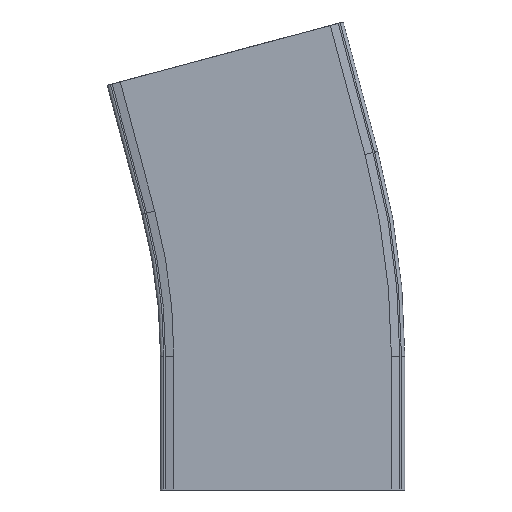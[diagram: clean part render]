
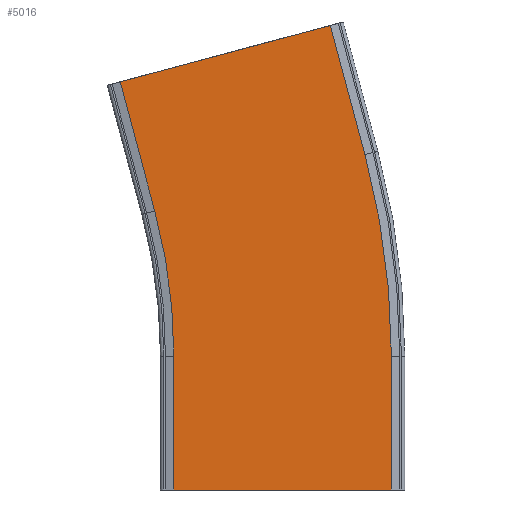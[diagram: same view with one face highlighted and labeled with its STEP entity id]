
A CAD part, front view. The second image highlights one B-rep face of the part: STEP entity #5016.
In plain terms, the highlighted planar face has unit normal (0, -1, 0).
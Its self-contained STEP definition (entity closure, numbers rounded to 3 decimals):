
#4773=CARTESIAN_POINT('',(104.,-74.,0.0));
#4774=VERTEX_POINT('',#4773);
#4781=CARTESIAN_POINT('',(-26.,-74.,0.0));
#4782=VERTEX_POINT('',#4781);
#4783=CARTESIAN_POINT('',(-26.,-74.,0.0));
#4784=DIRECTION('',(1.0,0.0,0.0));
#4785=VECTOR('',#4784,130.);
#4786=LINE('',#4783,#4785);
#4787=EDGE_CURVE('',#4782,#4774,#4786,.T.);
#4842=CARTESIAN_POINT('',(-26.,-74.,80.0));
#4843=VERTEX_POINT('',#4842);
#4852=CARTESIAN_POINT('',(-26.,-74.,0.0));
#4853=DIRECTION('',(0.0,0.0,1.0));
#4854=VECTOR('',#4853,80.0);
#4855=LINE('',#4852,#4854);
#4856=EDGE_CURVE('',#4782,#4843,#4855,.T.);
#4866=CARTESIAN_POINT('',(104.,-74.,80.0));
#4867=VERTEX_POINT('',#4866);
#4876=CARTESIAN_POINT('',(104.,-74.,0.0));
#4877=DIRECTION('',(0.0,0.0,1.0));
#4878=VECTOR('',#4877,80.0);
#4879=LINE('',#4876,#4878);
#4880=EDGE_CURVE('',#4774,#4867,#4879,.T.);
#4899=CARTESIAN_POINT('',(-37.415,-74.,166.704));
#4900=VERTEX_POINT('',#4899);
#4915=CARTESIAN_POINT('',(-361.,-74.,80.0));
#4916=DIRECTION('',(0.0,-1.0,0.0));
#4917=DIRECTION('',(1.0,0.0,0.0));
#4918=AXIS2_PLACEMENT_3D('',#4915,#4916,#4917);
#4919=CIRCLE('',#4918,335.);
#4920=EDGE_CURVE('',#4843,#4900,#4919,.T.);
#4974=CARTESIAN_POINT('',(135.964,-74.,21.925));
#4975=DIRECTION('',(0.0,-1.0,0.0));
#4976=DIRECTION('',(0.259,0.0,-0.966));
#4977=AXIS2_PLACEMENT_3D('',#4974,#4975,#4976);
#4978=PLANE('',#4977);
#4979=CARTESIAN_POINT('',(67.45,-74.,277.625));
#4980=VERTEX_POINT('',#4979);
#4981=CARTESIAN_POINT('',(-58.12,-74.,243.978));
#4982=VERTEX_POINT('',#4981);
#4983=CARTESIAN_POINT('',(67.45,-74.,277.625));
#4984=DIRECTION('',(-0.966,0.,-0.259));
#4985=VECTOR('',#4984,130.);
#4986=LINE('',#4983,#4985);
#4987=EDGE_CURVE('',#4980,#4982,#4986,.T.);
#4988=ORIENTED_EDGE('',*,*,#4987,.T.);
#4989=CARTESIAN_POINT('',(-37.415,-74.,166.704));
#4990=DIRECTION('',(-0.259,0.0,0.966));
#4991=VECTOR('',#4990,80.);
#4992=LINE('',#4989,#4991);
#4993=EDGE_CURVE('',#4900,#4982,#4992,.T.);
#4994=ORIENTED_EDGE('',*,*,#4993,.F.);
#4995=ORIENTED_EDGE('',*,*,#4920,.F.);
#4996=ORIENTED_EDGE('',*,*,#4856,.F.);
#4997=ORIENTED_EDGE('',*,*,#4787,.T.);
#4998=ORIENTED_EDGE('',*,*,#4880,.T.);
#4999=CARTESIAN_POINT('',(88.156,-74.,200.351));
#5000=VERTEX_POINT('',#4999);
#5001=CARTESIAN_POINT('',(-361.,-74.,80.0));
#5002=DIRECTION('',(0.0,-1.0,0.0));
#5003=DIRECTION('',(1.0,0.0,0.0));
#5004=AXIS2_PLACEMENT_3D('',#5001,#5002,#5003);
#5005=CIRCLE('',#5004,465.);
#5006=EDGE_CURVE('',#4867,#5000,#5005,.T.);
#5007=ORIENTED_EDGE('',*,*,#5006,.T.);
#5008=CARTESIAN_POINT('',(88.156,-74.,200.351));
#5009=DIRECTION('',(-0.259,0.0,0.966));
#5010=VECTOR('',#5009,80.);
#5011=LINE('',#5008,#5010);
#5012=EDGE_CURVE('',#5000,#4980,#5011,.T.);
#5013=ORIENTED_EDGE('',*,*,#5012,.T.);
#5014=EDGE_LOOP('',(#4988,#4994,#4995,#4996,#4997,#4998,#5007,#5013));
#5015=FACE_OUTER_BOUND('',#5014,.T.);
#5016=ADVANCED_FACE('',(#5015),#4978,.T.);
